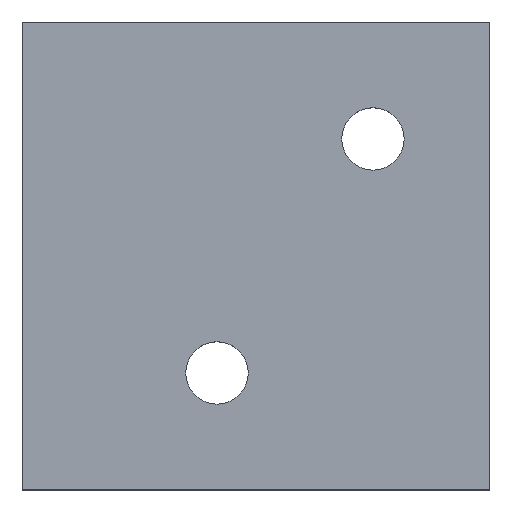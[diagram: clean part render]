
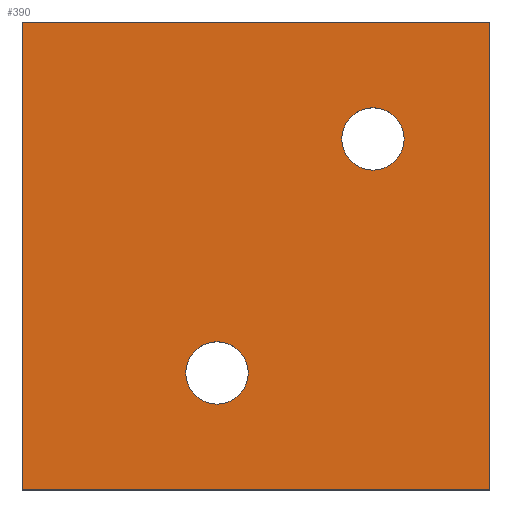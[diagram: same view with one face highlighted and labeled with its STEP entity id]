
A CAD part, top view. The second image highlights one B-rep face of the part: STEP entity #390.
In plain terms, the highlighted planar face has unit normal (0, 0, 1).
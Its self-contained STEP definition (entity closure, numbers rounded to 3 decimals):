
#184=CIRCLE('',#373,8.);
#185=CIRCLE('',#374,8.);
#188=ORIENTED_EDGE('',*,*,#256,.T.);
#189=ORIENTED_EDGE('',*,*,#257,.T.);
#190=ORIENTED_EDGE('',*,*,#258,.F.);
#191=ORIENTED_EDGE('',*,*,#259,.F.);
#192=ORIENTED_EDGE('',*,*,#260,.F.);
#193=ORIENTED_EDGE('',*,*,#261,.F.);
#220=VECTOR('',#302,1.);
#221=VECTOR('',#303,1.);
#222=VECTOR('',#304,1.);
#223=VECTOR('',#305,1.);
#232=LINE('',#339,#220);
#233=LINE('',#341,#221);
#234=LINE('',#343,#222);
#235=LINE('',#344,#223);
#244=VERTEX_POINT('',#337);
#245=VERTEX_POINT('',#338);
#246=VERTEX_POINT('',#340);
#247=VERTEX_POINT('',#342);
#248=VERTEX_POINT('',#345);
#249=VERTEX_POINT('',#347);
#256=EDGE_CURVE('',#244,#245,#232,.T.);
#257=EDGE_CURVE('',#245,#246,#233,.T.);
#258=EDGE_CURVE('',#247,#246,#234,.T.);
#259=EDGE_CURVE('',#244,#247,#235,.T.);
#260=EDGE_CURVE('',#248,#248,#184,.T.);
#261=EDGE_CURVE('',#249,#249,#185,.T.);
#272=EDGE_LOOP('',(#188,#189,#190,#191));
#273=EDGE_LOOP('',(#192));
#274=EDGE_LOOP('',(#193));
#286=FACE_BOUND('',#272,.T.);
#287=FACE_BOUND('',#273,.T.);
#288=FACE_BOUND('',#274,.T.);
#300=DIRECTION('',(0.,0.,1.));
#301=DIRECTION('',(0.,-1.,0.));
#302=DIRECTION('',(0.,120.,0.));
#303=DIRECTION('',(-120.,0.,0.));
#304=DIRECTION('',(0.,120.,0.));
#305=DIRECTION('',(-120.,0.,0.));
#306=DIRECTION('',(0.,0.,1.));
#307=DIRECTION('',(8.,0.,0.));
#308=DIRECTION('',(0.,0.,1.));
#309=DIRECTION('',(8.,0.,0.));
#336=CARTESIAN_POINT('',(120.,60.,5.));
#337=CARTESIAN_POINT('',(120.,-60.,5.));
#338=CARTESIAN_POINT('',(120.,60.,5.));
#339=CARTESIAN_POINT('',(120.,-60.,5.));
#340=CARTESIAN_POINT('',(0.,60.,5.));
#341=CARTESIAN_POINT('',(120.,60.,5.));
#342=CARTESIAN_POINT('',(0.,-60.,5.));
#343=CARTESIAN_POINT('',(0.,-60.,5.));
#344=CARTESIAN_POINT('',(120.,-60.,5.));
#345=CARTESIAN_POINT('',(58.,-30.,5.));
#346=CARTESIAN_POINT('',(50.,-30.,5.));
#347=CARTESIAN_POINT('',(98.,30.,5.));
#348=CARTESIAN_POINT('',(90.,30.,5.));
#372=AXIS2_PLACEMENT_3D('',#336,#300,#301);
#373=AXIS2_PLACEMENT_3D('',#346,#306,#307);
#374=AXIS2_PLACEMENT_3D('',#348,#308,#309);
#384=PLANE('',#372);
#390=ADVANCED_FACE('',(#286,#287,#288),#384,.T.);
